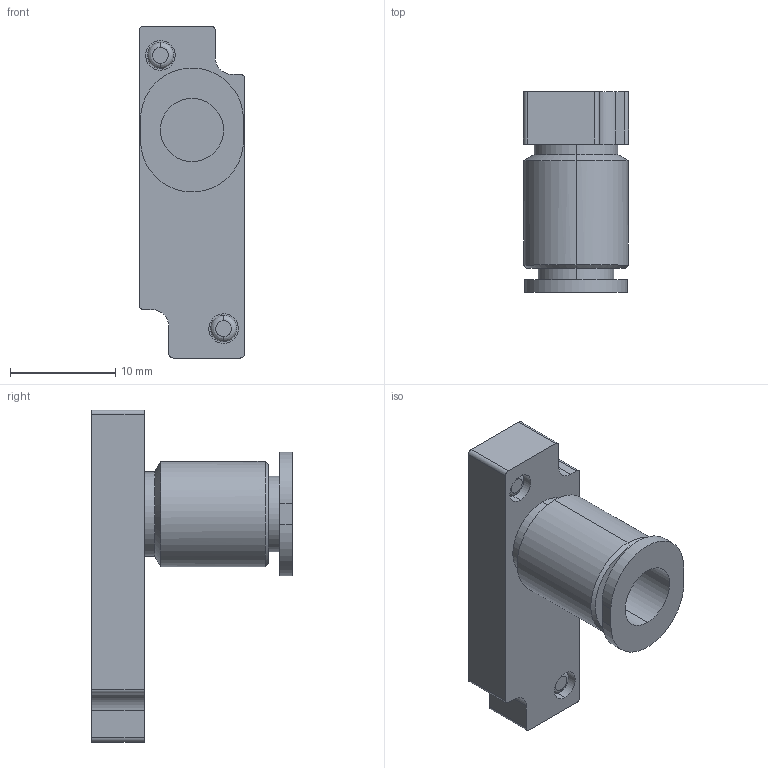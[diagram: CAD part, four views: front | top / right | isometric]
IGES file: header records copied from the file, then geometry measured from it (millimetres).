
Start section: ------------------------------------------------------------------------
Global section: file name: D:\ICADMX\tmp\trans3d_spg\CVICAD02.10028.F10_Port_VJ6A_8605.igs; native system: spGate; preprocessor: ver12.6.6; author: Unknown; organization: Unknown; date: 200901.142434; units: millimetre
Bounding box: 10 x 19.1 x 31.6 mm (x, y, z)
Volume: 2168.8 mm3; surface area: 1804.5 mm2
Topology: 1 solids, 1 shells, 50 faces, 114 edges, 74 vertices
Faces by surface type: bspline 50
